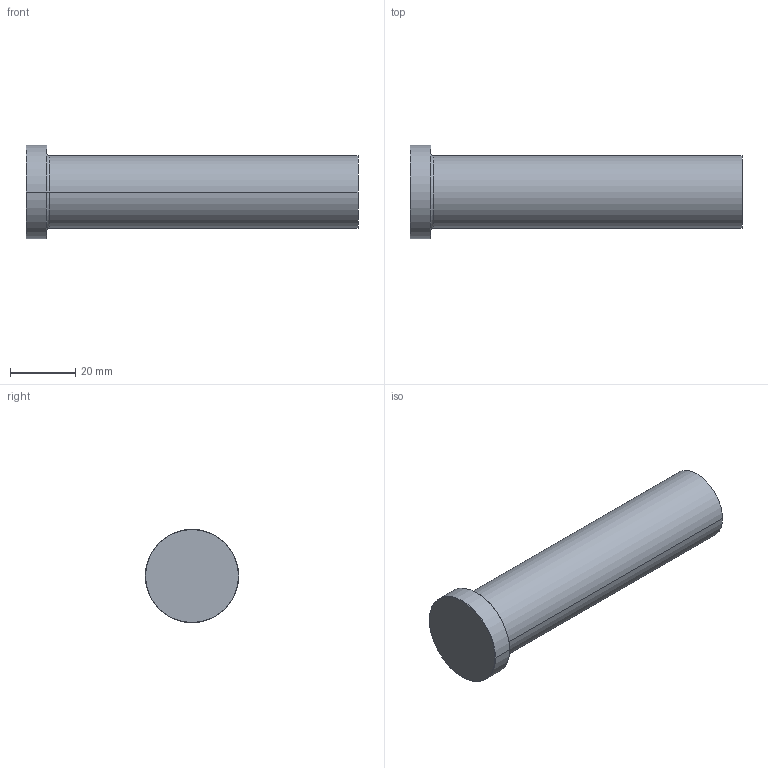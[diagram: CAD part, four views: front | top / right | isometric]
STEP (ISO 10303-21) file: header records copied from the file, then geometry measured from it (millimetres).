
FILE_DESCRIPTION (( 'STEP AP214' ), '1' );
FILE_NAME ('P45-4.STEP', '2020-03-12T12:21:02', ( '' ), ( '' ), 'SwSTEP 2.0', 'SolidWorks 2018', '' );
FILE_SCHEMA (( 'AUTOMOTIVE_DESIGN' ));
Length unit declared in the file: inch
Products named in the file (1): P45-4
Bounding box: 101.6 x 28.57 x 28.57 mm (x, y, z)
Volume: 40990 mm3; surface area: 8466.1 mm2
Topology: 1 solids, 1 shells, 13 faces, 24 edges, 14 vertices
Faces by surface type: cone 4, cylinder 4, plane 3, torus 2
Entity records: 366 total; most frequent: DIRECTION 68, CARTESIAN_POINT 52, ORIENTED_EDGE 48, AXIS2_PLACEMENT_3D 30, EDGE_CURVE 24, CIRCLE 16, EDGE_LOOP 14, VERTEX_POINT 14
